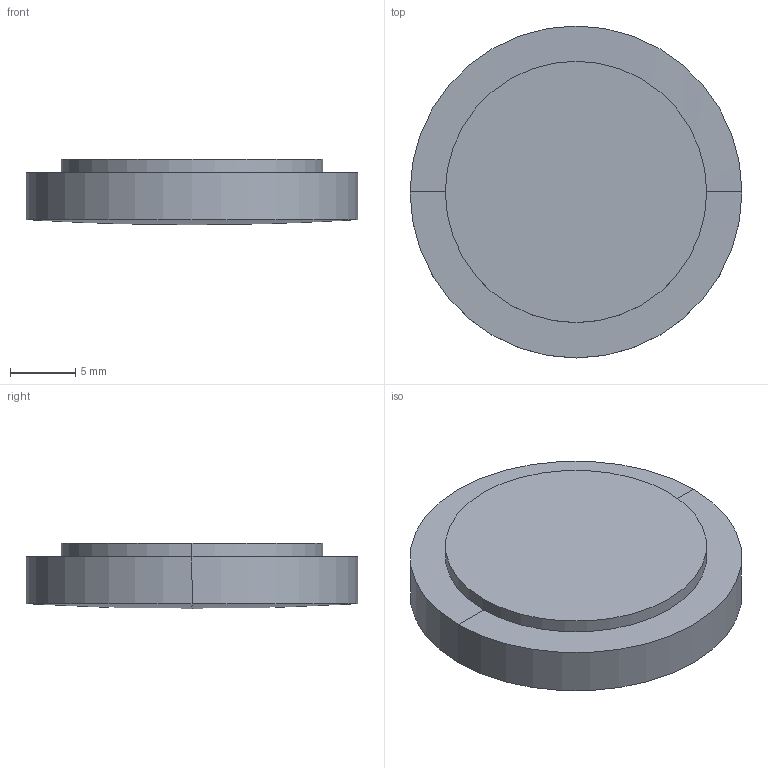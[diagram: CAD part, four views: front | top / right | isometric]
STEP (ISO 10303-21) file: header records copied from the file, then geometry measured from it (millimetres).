
FILE_DESCRIPTION(('STEP AP214'),'1');
FILE_NAME('LLV-25380.STEP','2020-03-09T17:42:22',(' '),(' '),'Spatial InterOp 3D',' ',' ');
FILE_SCHEMA(('AUTOMOTIVE_DESIGN { 1 0 10303 214 1 1 1 1 }'));
Length unit declared in the file: millimetre
Products named in the file (1): 1
Bounding box: 25.4 x 25.4 x 5 mm (x, y, z)
Volume: 2234.3 mm3; surface area: 1990.6 mm2
Topology: 2 solids, 2 shells, 10 faces, 20 edges, 10 vertices
Faces by surface type: sphere 4, cylinder 4, plane 2
Entity records: 255 total; most frequent: DIRECTION 52, CARTESIAN_POINT 38, ORIENTED_EDGE 32, AXIS2_PLACEMENT_3D 24, EDGE_CURVE 16, CIRCLE 12, ADVANCED_FACE 10, FACE_OUTER_BOUND 10
